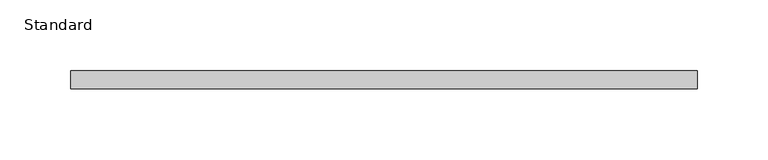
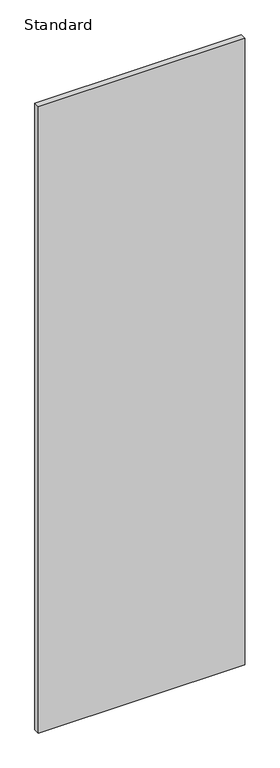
"""IFC4 building model written with IfcOpenShell, lengths in millimetres: furniture geometry, X_Locker-Duracube-Door : Standard."""

import ifcopenshell
import ifcopenshell.guid

model = None  # the IFC model being written
_history = None  # IfcOwnerHistory: only IFC2X3 demands one
_inside = {}  # id of a spatial element -> (the spatial element, [elements in it])
_under = {}  # id of a project, library or spatial element -> (it, [spatial elements below it])
_declared = {}  # id of a project -> (the project, [libraries it declares])
_typed = {}  # id of a type object -> (the type object, [elements of that type])
_made_of = {}  # id of a material, layer set ... -> (it, [elements and type objects made of it])


def new_model(schema):
    """Start an empty IFC model of exactly this schema.

    Asked for "IFC4X3", IfcOpenShell would pick the latest addendum, in which some entities
    have other attributes; the version numbers below select the first issue.
    IFC2X3 requires an IfcOwnerHistory on every rooted entity: one is made here for all.
    """
    global model, _history
    if schema == "IFC4X3":
        model = ifcopenshell.file(schema_version=(4, 3, 0, 0))
    else:
        model = ifcopenshell.file(schema=schema)
    _inside.clear()
    _under.clear()
    _declared.clear()
    _typed.clear()
    _made_of.clear()
    _history = None
    if model.schema == "IFC2X3":
        org = make("IfcOrganization", Name="unknown")
        user = make(
            "IfcPersonAndOrganization",
            ThePerson=make("IfcPerson", FamilyName="unknown"),
            TheOrganization=org,
        )
        app = make(
            "IfcApplication",
            ApplicationDeveloper=org,
            Version="unknown",
            ApplicationFullName="unknown",
            ApplicationIdentifier="unknown",
        )
        _history = make(
            "IfcOwnerHistory",
            OwningUser=user,
            OwningApplication=app,
            ChangeAction="ADDED",
            CreationDate=0,
        )
    return model


def make(cls, **values):
    """One entity of the class cls with the attributes given. An attribute that is None is left unset."""
    return model.create_entity(
        cls, **{name: value for name, value in values.items() if value is not None}
    )


def rooted(cls, **values):
    """An entity with a GlobalId (a new one), such as an element, a storey or a relation."""
    return make(cls, GlobalId=ifcopenshell.guid.new(), OwnerHistory=_history, **values)


def si_unit(unit_type, name, prefix=None):
    """IfcSIUnit, for example si_unit("LENGTHUNIT", "METRE", prefix="MILLI")."""
    return make("IfcSIUnit", UnitType=unit_type, Prefix=prefix, Name=name)


def assignment(units):
    """IfcUnitAssignment: the units of a project."""
    return None if units is None else make("IfcUnitAssignment", Units=units)


def point(xyz):
    """IfcCartesianPoint."""
    return None if xyz is None else make("IfcCartesianPoint", Coordinates=xyz)


def direction(xyz):
    """IfcDirection."""
    return None if xyz is None else make("IfcDirection", DirectionRatios=xyz)


def frame(location, z_axis=None, x_axis=None):
    """IfcAxis2Placement3D, a coordinate frame: its origin and axes. An axis left out is left unset."""
    return make(
        "IfcAxis2Placement3D",
        Location=point(location),
        Axis=direction(z_axis),
        RefDirection=direction(x_axis),
    )


def origin():
    """The frame at (0, 0, 0) with its axes left unset."""
    return frame((0.0, 0.0, 0.0))


def place(relative_to, where):
    """IfcLocalPlacement: puts the frame where relative to a parent placement (None: the world)."""
    return make(
        "IfcLocalPlacement", PlacementRelTo=relative_to, RelativePlacement=where
    )


def context(
    kind, dimensions, precision=None, world=None, true_north=None, identifier=None
):
    """IfcGeometricRepresentationContext, for example the 3D "Model" context."""
    return make(
        "IfcGeometricRepresentationContext",
        ContextIdentifier=identifier,
        ContextType=kind,
        CoordinateSpaceDimension=dimensions,
        Precision=precision,
        WorldCoordinateSystem=world,
        TrueNorth=true_north,
    )


def project(units=None, contexts=None):
    """IfcProject with its units and contexts."""
    return rooted(
        "IfcProject",
        Name="project",
        RepresentationContexts=contexts,
        UnitsInContext=assignment(units),
    )


def spatial(cls, under=None, at=None, **own):
    """A site, building, storey or space (cls), placed at a placement, below another one or the project."""
    s = rooted(cls, ObjectPlacement=at, **own)
    if under is not None:
        _under.setdefault(under.id(), (under, []))[1].append(s)
    return s


def polyline(points):
    """IfcPolyline through the points."""
    return make("IfcPolyline", Points=[point(p) for p in points])


def outline(outer, holes=None, kind="AREA"):
    """IfcArbitraryClosedProfileDef: a profile drawn as a closed curve; with holes, ...WithVoids."""
    if holes is None:
        return make("IfcArbitraryClosedProfileDef", ProfileType=kind, OuterCurve=outer)
    return make(
        "IfcArbitraryProfileDefWithVoids",
        ProfileType=kind,
        OuterCurve=outer,
        InnerCurves=holes,
    )


def extrude(swept, where, along, depth):
    """IfcExtrudedAreaSolid: the profile swept, set in the frame where, extruded along a direction by depth."""
    return make(
        "IfcExtrudedAreaSolid",
        SweptArea=swept,
        Position=where,
        ExtrudedDirection=direction(along),
        Depth=depth,
    )


def shape(context_of_items, identifier, shape_type, items):
    """IfcShapeRepresentation: the items that make up one representation, for example the "Body"."""
    return make(
        "IfcShapeRepresentation",
        ContextOfItems=context_of_items,
        RepresentationIdentifier=identifier,
        RepresentationType=shape_type,
        Items=items,
    )


def source(mapping_origin, context_of_items, identifier, shape_type, items):
    """IfcRepresentationMap: a shape defined once, which mapped items show again and again."""
    return make(
        "IfcRepresentationMap",
        MappingOrigin=mapping_origin,
        MappedRepresentation=shape(context_of_items, identifier, shape_type, items),
    )


def transform(
    local_origin,
    x_axis=None,
    y_axis=None,
    z_axis=None,
    scale=None,
    scale2=None,
    scale3=None,
    uniform=True,
):
    """IfcCartesianTransformationOperator3D, or its non-uniform kind. x_axis, y_axis, z_axis: its Axis1, 2, 3."""
    if uniform:
        return make(
            "IfcCartesianTransformationOperator3D",
            Axis1=direction(x_axis),
            Axis2=direction(y_axis),
            LocalOrigin=point(local_origin),
            Scale=scale,
            Axis3=direction(z_axis),
        )
    return make(
        "IfcCartesianTransformationOperator3DnonUniform",
        Axis1=direction(x_axis),
        Axis2=direction(y_axis),
        LocalOrigin=point(local_origin),
        Scale=scale,
        Axis3=direction(z_axis),
        Scale2=scale2,
        Scale3=scale3,
    )


def mapped(mapping_source, mapping_target):
    """IfcMappedItem: shows the shape of a source again, moved by a transform."""
    return make(
        "IfcMappedItem", MappingSource=mapping_source, MappingTarget=mapping_target
    )


def made_of(thing, what):
    """Note that an element or type object is made of a material, layer set ...; save() writes the relation."""
    if what is not None:
        _made_of.setdefault(what.id(), (what, []))[1].append(thing)
    return thing


def element(
    cls,
    number,
    at=None,
    inside=None,
    cuts=None,
    type_object=None,
    material=None,
    context=None,
    identifier="Body",
    shape_type=None,
    held_by="IfcProductDefinitionShape",
    body=None,
    shapes=None,
    **own,
):
    """One element of the class cls, such as IfcWall. Its Tag is "e" and its number.

    at: its placement. inside: the storey or other place that contains it. cuts: it is an
    opening in that element (IfcRelVoidsElement). A single representation is given by context,
    identifier, shape_type and body (its items); several are given by shapes. held_by: the class
    of the entity that holds the representations. save() writes the other relations.
    """
    e = rooted(cls, Tag="e%d" % number, ObjectPlacement=at, **own)
    if body is not None:
        shapes = [shape(context, identifier, shape_type, body)]
    if shapes is not None:
        e.Representation = make(held_by, Representations=shapes)
    if inside is not None:
        _inside.setdefault(inside.id(), (inside, []))[1].append(e)
    if cuts is not None:
        rooted(
            "IfcRelVoidsElement", RelatingBuildingElement=cuts, RelatedOpeningElement=e
        )
    if type_object is not None:
        _typed.setdefault(type_object.id(), (type_object, []))[1].append(e)
    return made_of(e, material)


def aggregate(whole, parts):
    """IfcRelAggregates: a whole, such as a stair, and the parts it consists of."""
    return rooted("IfcRelAggregates", RelatingObject=whole, RelatedObjects=parts)


def save(model, path):
    """Write the relations noted so far, then the file.

    IfcRelAggregates (storeys below a building ...), IfcRelContainedInSpatialStructure (elements
    in a storey), IfcRelDefinesByType, IfcRelAssociatesMaterial and IfcRelDeclares: one each for
    every whole, place, type object, material and project.
    """
    for whole, parts in _under.values():
        aggregate(whole, parts)
    for where, things in _inside.values():
        rooted(
            "IfcRelContainedInSpatialStructure",
            RelatedElements=things,
            RelatingStructure=where,
        )
    for kind, things in _typed.values():
        rooted("IfcRelDefinesByType", RelatedObjects=things, RelatingType=kind)
    for what, things in _made_of.values():
        rooted("IfcRelAssociatesMaterial", RelatedObjects=things, RelatingMaterial=what)
    for by, libraries in _declared.values():
        rooted("IfcRelDeclares", RelatingContext=by, RelatedDefinitions=libraries)
    model.write(path)


def standard_25a9957e(model_context):
    return source(origin(), model_context, "Body", "SweptSolid", [
        extrude(outline(polyline([(266.7003264, -13.0), (-177.2996736, -13.0), (-177.2996736, 0.0), (266.7003264, 0.0), (266.7003264, -13.0)])), frame((0.0, 0.0, 3.0), z_axis=(0.0, 0.0, 1.0), x_axis=(1.0, 0.0, 0.0)), (0.0, 0.0, 1.0), 1424.0),
    ])


if __name__ == "__main__":
    model = new_model("IFC4")
    model_context = context("Model", 3, world=origin())
    ifc_project = project(units=[si_unit("LENGTHUNIT", "METRE", prefix="MILLI")], contexts=[model_context])
    site = spatial("IfcSite", under=ifc_project)
    building = spatial("IfcBuilding", under=site)
    placement = place(None, origin())
    standard_shape = standard_25a9957e(model_context)
    element("IfcFurniture", 1, ObjectType="X_Locker-Duracube-Door : Standard", at=placement, inside=building, context=model_context, shape_type="MappedRepresentation", body=[
        mapped(standard_shape, transform((0.0, 0.0, 0.0), x_axis=(1.0, 0.0, 0.0), y_axis=(0.0, 1.0, 0.0), z_axis=(0.0, 0.0, 1.0))),
    ])
    save(model, "model.ifc")
